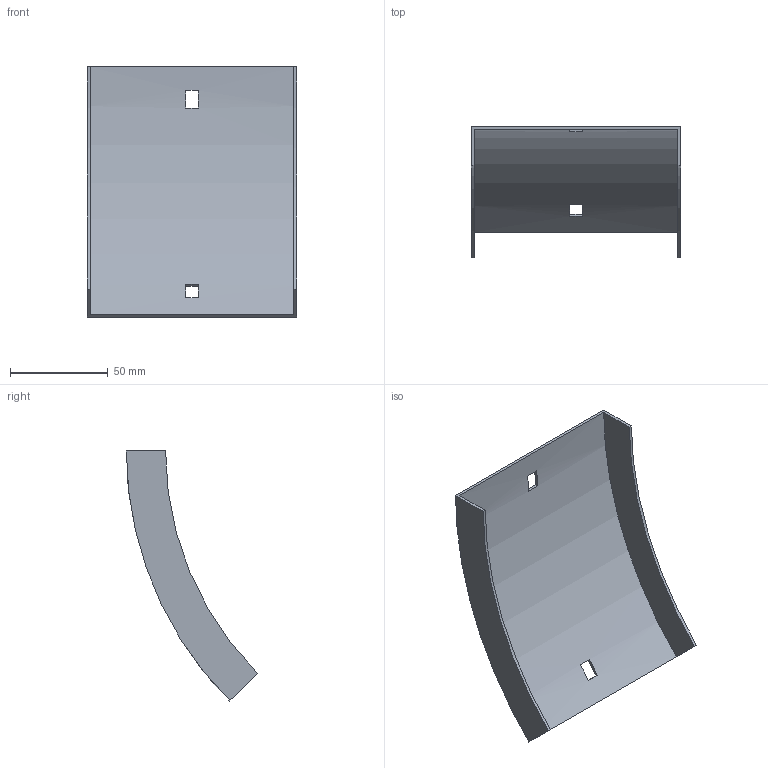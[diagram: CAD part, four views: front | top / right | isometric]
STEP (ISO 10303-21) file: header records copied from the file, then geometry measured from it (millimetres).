
FILE_DESCRIPTION (( 'STEP AP214' ), '1' );
FILE_NAME ('34N1C100.step', '2025-02-21T09:15:50', ( '' ), ( '' ), 'SwSTEP 2.0', 'SolidWorks 2023', '' );
FILE_SCHEMA (( 'AUTOMOTIVE_DESIGN' ));
Length unit declared in the file: millimetre
Products named in the file (1): 34N1C100
Bounding box: 107 x 67.01 x 127.63 mm (x, y, z)
Volume: 29881.7 mm3; surface area: 40747.6 mm2
Topology: 1 solids, 1 shells, 18 faces, 48 edges, 32 vertices
Faces by surface type: plane 14, cylinder 4
Entity records: 599 total; most frequent: DIRECTION 102, CARTESIAN_POINT 99, ORIENTED_EDGE 96, EDGE_CURVE 48, AXIS2_PLACEMENT_3D 35, LINE 32, VECTOR 32, VERTEX_POINT 32
